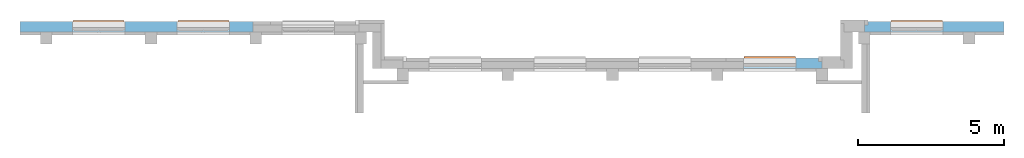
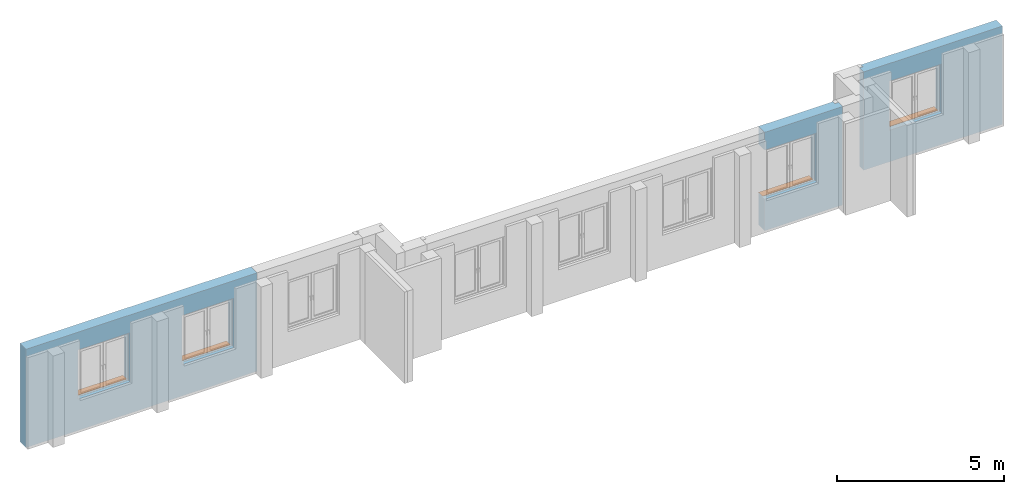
# One storey, part 5 of 7: 4 proxies, 4 openings, plus 3 elements that do not belong to this part.
"""IFC4 building model written with IfcOpenShell, lengths in metres."""

from ifc_helpers import new_model, entity, si_unit, converted_unit, derived_unit, frame, frame_2d, origin, origin_with_axes, place, context, subcontext, project, spatial, polyline, rectangle, outline, extrude, faceted_brep, source, transform, mapped, material, layer, layer_set, layer_usage, element, fill, save


model = new_model("IFC4")

# Units and contexts
model_context = context("Model", 3, precision=1e-05, world=origin())
body_context = subcontext(model_context, "Body", "Model", "MODEL_VIEW")
ifc_project = project(units=[si_unit("LENGTHUNIT", "METRE"), si_unit("AREAUNIT", "SQUARE_METRE"), si_unit("VOLUMEUNIT", "CUBIC_METRE"), si_unit("MASSUNIT", "GRAM", prefix="KILO"), converted_unit("PLANEANGLEUNIT", "DEGREE", entity("IfcPlaneAngleMeasure", 0.0174532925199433), si_unit("PLANEANGLEUNIT", "RADIAN"), dimensions=[0, 0, 0, 0, 0, 0, 0]), derived_unit("THERMALTRANSMITTANCEUNIT", [(si_unit("POWERUNIT", "WATT"), 1), (si_unit("THERMODYNAMICTEMPERATUREUNIT", "KELVIN"), -1), (si_unit("LENGTHUNIT", "METRE"), -2)]), derived_unit("VOLUMETRICFLOWRATEUNIT", [(si_unit("LENGTHUNIT", "METRE"), 3), (converted_unit("TIMEUNIT", "hour", entity("IfcTimeMeasure", 3600.0), si_unit("TIMEUNIT", "SECOND"), dimensions=[0, 0, 1, 0, 0, 0, 0]), -1), (si_unit("LENGTHUNIT", "METRE"), -1)])], contexts=[model_context])

# Site, building, storey
site_placement = place(None, origin())
site = spatial("IfcSite", under=ifc_project, at=site_placement, Name="3. ASŘ", CompositionType="ELEMENT")
building_placement = place(site_placement, origin())
building = spatial("IfcBuilding", under=site, at=building_placement, Name="Pavilon B", CompositionType="ELEMENT")
storey_placement = place(building_placement, frame((0.0, 0.0, 3.6)))
storey = spatial("IfcBuildingStorey", under=building, at=storey_placement, Name="Půdorys 2.NP", CompositionType="ELEMENT", Elevation=3.6)

# Wall, opening, proxy
ifc_material_1 = material(Name="ZELEZOBETONOVÁ KCE")
ifc_layer_1 = layer(ifc_material_1, 0.249999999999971)
ifc_material_2 = material(Name="MINERÁLNÍ VATA")
ifc_layer_2 = layer(ifc_material_2, 0.119999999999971)
ifc_layer_set_1 = layer_set([ifc_layer_1, ifc_layer_2])
ifc_layer_usage_1 = layer_usage(ifc_layer_set_1, "AXIS2", "POSITIVE", 0.0)
wall_1_placement = place(storey_placement, frame((44.95, -16.85, -0.1)))
wall_1 = element("IfcWall", 1, at=wall_1_placement, inside=storey, material=ifc_layer_usage_1, Name="ZELEZOBETONOVÁ KCE", context=body_context, shape_type="SweptSolid", body=[
    extrude(outline(polyline([(0.0, 0.0), (2.7, 0.0), (2.7, 0.249999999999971), (2.58, 0.249999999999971), (2.58, 0.369999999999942), (0.0, 0.369999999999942), (0.0, 0.0)])), origin_with_axes(), (0.0, 0.0, 1.0), 3.6),
])
opening_1_placement = place(wall_1_placement, frame((1.8, 0.369999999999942, 1.15), z_axis=(0.0, -1.0, 0.0), x_axis=(0.0, 0.0, 1.0)))
opening_1 = element("IfcOpeningElement", 2, at=opening_1_placement, cuts=wall_1, Name="Okenní otvor", ObjectType="Opening", context=body_context, shape_type="SweptSolid", body=[
    extrude(outline(polyline([(0.0, 1.8), (1.8, 1.8), (1.8, 0.0), (0.0, 0.0), (0.0, 1.8)])), origin_with_axes(), (0.0, 0.0, 1.0), 0.119999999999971),
    extrude(outline(polyline([(0.0, 1.8), (1.8, 1.8), (1.8, 0.0), (0.0, 0.0), (0.0, 1.8)])), frame((0.0, 0.0, 0.119999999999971), z_axis=(0.0, 0.0, 1.0), x_axis=(1.0, 0.0, 0.0)), (0.0, 0.0, 1.0), 0.249999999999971),
])
ifc_material_3 = material(Name="PLECH")
shared_shape_1 = source(origin_with_axes(), body_context, "Body", "Brep", [
    faceted_brep([(0.04, 0.0, 0.0), (0.04, 0.2, 0.0), (0.04, 0.2, 0.005), (0.04, 0.0, 0.005), (1.76, 0.0, 0.0), (1.76, 0.0, 0.005), (1.76, 0.2, 0.005), (1.76, 0.2, 0.0), (0.02, 0.0, 0.0), (0.02, -0.035, 0.0), (1.78, -0.035, 0.0), (1.78, 0.0, 0.0), (1.78, 0.0, 0.005), (1.78, -0.04, 0.005), (0.02, -0.04, 0.005), (0.02, 0.0, 0.005), (0.02, -0.04, -0.025), (0.02, -0.035, -0.025), (1.78, -0.035, -0.025), (1.78, -0.04, -0.025)], [[[0, 1, 2, 3]], [[4, 5, 6, 7]], [[1, 0, 8, 9, 10, 11, 4, 7]], [[2, 1, 7, 6]], [[3, 2, 6, 5, 12, 13, 14, 15]], [[8, 15, 14, 16, 17, 9]], [[11, 10, 18, 19, 13, 12]], [[15, 8, 0, 3]], [[5, 4, 11, 12]], [[16, 14, 13, 19]], [[17, 16, 19, 18]], [[9, 17, 18, 10]]], orient=[[False], [False], [False], [False], [False], [False], [False], [False], [False], [False], [False], [False]]),
    faceted_brep([(0.02, 0.0, 0.0), (0.02, 0.2, 0.0), (0.02, 0.2, 0.005), (0.02, 0.0, 0.005), (0.04, 0.0, 0.0), (0.04, 0.0, 0.005), (0.04, 0.2, 0.005), (0.04, 0.2, 0.0)], [[[0, 1, 2, 3]], [[4, 5, 6, 7]], [[1, 0, 4, 7]], [[2, 1, 7, 6]], [[3, 2, 6, 5]], [[0, 3, 5, 4]]], orient=[[False], [False], [False], [False], [False], [False]]),
    faceted_brep([(1.76, 0.0, 0.0), (1.76, 0.2, 0.0), (1.76, 0.2, 0.005), (1.76, 0.0, 0.005), (1.78, 0.0, 0.0), (1.78, 0.0, 0.005), (1.78, 0.2, 0.005), (1.78, 0.2, 0.0)], [[[0, 1, 2, 3]], [[4, 5, 6, 7]], [[1, 0, 4, 7]], [[2, 1, 7, 6]], [[3, 2, 6, 5]], [[0, 3, 5, 4]]], orient=[[False], [False], [False], [False], [False], [False]]),
])
proxy_1_placement = place(opening_1_placement, frame((0.0, 0.0, 0.0), z_axis=(1.0, 0.0, 0.0), x_axis=(0.0, 1.0, 0.0)))
proxy_1 = element("IfcBuildingElementProxy", 3, at=proxy_1_placement, inside=storey, material=ifc_material_3, Name="Parapet vnější", context=body_context, shape_type="MappedRepresentation", body=[
    mapped(shared_shape_1, transform((0.0, 0.0, 0.0), x_axis=(1.0, 0.0, 0.0), y_axis=(0.0, 1.0, 0.0), z_axis=(0.0, 0.0, 1.0), scale=1.0)),
])
fill(opening_1, proxy_1)

ifc_material_4 = material(Name="ZELEZOBETONOVÁ KCE")
ifc_layer_3 = layer(ifc_material_4, 0.25)
ifc_material_5 = material(Name="MINERÁLNÍ VATA")
ifc_layer_4 = layer(ifc_material_5, 0.12)
ifc_layer_set_2 = layer_set([ifc_layer_3, ifc_layer_4])
ifc_layer_usage_2 = layer_usage(ifc_layer_set_2, "AXIS2", "POSITIVE", 0.0)
wall_2_placement = place(storey_placement, frame((49.1, -15.6, -0.1)))
wall_2 = element("IfcWall", 4, at=wall_2_placement, inside=storey, material=ifc_layer_usage_2, Name="ZELEZOBETONOVÁ KCE", context=body_context, shape_type="SweptSolid", body=[
    extrude(outline(polyline([(0.12, 0.37), (0.12, 0.25), (0.0, 0.25), (0.0, 0.0), (4.8, 0.0), (4.8, 0.37), (0.12, 0.37)])), origin_with_axes(), (0.0, 0.0, 1.0), 3.6),
])
opening_2_placement = place(wall_2_placement, frame((2.7, 0.37, 1.15), z_axis=(0.0, -1.0, 0.0), x_axis=(0.0, 0.0, 1.0)))
opening_2 = element("IfcOpeningElement", 5, at=opening_2_placement, cuts=wall_2, Name="Okenní otvor", ObjectType="Opening", context=body_context, shape_type="SweptSolid", body=[
    extrude(outline(polyline([(0.0, 1.8), (1.8, 1.8), (1.8, 0.0), (0.0, 0.0), (0.0, 1.8)])), origin_with_axes(), (0.0, 0.0, 1.0), 0.12),
    extrude(outline(polyline([(0.0, 1.8), (1.8, 1.8), (1.8, 0.0), (0.0, 0.0), (0.0, 1.8)])), frame((0.0, 0.0, 0.12), z_axis=(0.0, 0.0, 1.0), x_axis=(1.0, 0.0, 0.0)), (0.0, 0.0, 1.0), 0.25),
])
ifc_material_6 = material(Name="PLECH")
shared_shape_2 = source(origin_with_axes(), body_context, "Body", "Brep", [
    faceted_brep([(0.04, 0.0, 0.0), (0.04, 0.2, 0.0), (0.04, 0.2, 0.005), (0.04, 0.0, 0.005), (1.76, 0.0, 0.0), (1.76, 0.0, 0.005), (1.76, 0.2, 0.005), (1.76, 0.2, 0.0), (0.02, 0.0, 0.0), (0.02, -0.035, 0.0), (1.78, -0.035, 0.0), (1.78, 0.0, 0.0), (1.78, 0.0, 0.005), (1.78, -0.04, 0.005), (0.02, -0.04, 0.005), (0.02, 0.0, 0.005), (0.02, -0.04, -0.025), (0.02, -0.035, -0.025), (1.78, -0.035, -0.025), (1.78, -0.04, -0.025)], [[[0, 1, 2, 3]], [[4, 5, 6, 7]], [[1, 0, 8, 9, 10, 11, 4, 7]], [[2, 1, 7, 6]], [[3, 2, 6, 5, 12, 13, 14, 15]], [[8, 15, 14, 16, 17, 9]], [[11, 10, 18, 19, 13, 12]], [[15, 8, 0, 3]], [[5, 4, 11, 12]], [[16, 14, 13, 19]], [[17, 16, 19, 18]], [[9, 17, 18, 10]]], orient=[[False], [False], [False], [False], [False], [False], [False], [False], [False], [False], [False], [False]]),
    faceted_brep([(0.02, 0.0, 0.0), (0.02, 0.2, 0.0), (0.02, 0.2, 0.005), (0.02, 0.0, 0.005), (0.04, 0.0, 0.0), (0.04, 0.0, 0.005), (0.04, 0.2, 0.005), (0.04, 0.2, 0.0)], [[[0, 1, 2, 3]], [[4, 5, 6, 7]], [[1, 0, 4, 7]], [[2, 1, 7, 6]], [[3, 2, 6, 5]], [[0, 3, 5, 4]]], orient=[[False], [False], [False], [False], [False], [False]]),
    faceted_brep([(1.76, 0.0, 0.0), (1.76, 0.2, 0.0), (1.76, 0.2, 0.005), (1.76, 0.0, 0.005), (1.78, 0.0, 0.0), (1.78, 0.0, 0.005), (1.78, 0.2, 0.005), (1.78, 0.2, 0.0)], [[[0, 1, 2, 3]], [[4, 5, 6, 7]], [[1, 0, 4, 7]], [[2, 1, 7, 6]], [[3, 2, 6, 5]], [[0, 3, 5, 4]]], orient=[[False], [False], [False], [False], [False], [False]]),
])
proxy_2_placement = place(opening_2_placement, frame((0.0, 0.0, 0.0), z_axis=(1.0, 0.0, 0.0), x_axis=(0.0, 1.0, 0.0)))
proxy_2 = element("IfcBuildingElementProxy", 6, at=proxy_2_placement, inside=storey, material=ifc_material_6, Name="Parapet vnější", context=body_context, shape_type="MappedRepresentation", body=[
    mapped(shared_shape_2, transform((0.0, 0.0, 0.0), x_axis=(1.0, 0.0, 0.0), y_axis=(0.0, 1.0, 0.0), z_axis=(0.0, 0.0, 1.0), scale=1.0)),
])
fill(opening_2, proxy_2)

# Wall, openings, proxies
ifc_material_7 = material(Name="ZELEZOBETONOVÁ KCE")
ifc_layer_5 = layer(ifc_material_7, 0.25)
ifc_material_8 = material(Name="MINERÁLNÍ VATA")
ifc_layer_6 = layer(ifc_material_8, 0.12)
ifc_layer_set_3 = layer_set([ifc_layer_5, ifc_layer_6])
ifc_layer_usage_3 = layer_usage(ifc_layer_set_3, "AXIS2", "POSITIVE", 0.0)
wall_3_placement = place(storey_placement, frame((20.1, -15.6, -0.1)))
wall_3 = element("IfcWall", 7, at=wall_3_placement, inside=storey, material=ifc_layer_usage_3, Name="ZELEZOBETONOVÁ KCE", context=body_context, shape_type="SweptSolid", body=[
    extrude(rectangle(XDim=8.0, YDim=0.37, at=frame_2d((4.0, 0.185), x_axis=(1.0, 0.0))), origin_with_axes(), (0.0, 0.0, 1.0), 3.6),
])
opening_3_placement = place(wall_3_placement, frame((3.6, 0.37, 1.15), z_axis=(0.0, -1.0, 0.0), x_axis=(0.0, 0.0, 1.0)))
opening_3 = element("IfcOpeningElement", 8, at=opening_3_placement, cuts=wall_3, Name="Okenní otvor", ObjectType="Opening", context=body_context, shape_type="SweptSolid", body=[
    extrude(outline(polyline([(0.0, 1.8), (1.8, 1.8), (1.8, 0.0), (0.0, 0.0), (0.0, 1.8)])), origin_with_axes(), (0.0, 0.0, 1.0), 0.12),
    extrude(outline(polyline([(0.0, 1.8), (1.8, 1.8), (1.8, 0.0), (0.0, 0.0), (0.0, 1.8)])), frame((0.0, 0.0, 0.12), z_axis=(0.0, 0.0, 1.0), x_axis=(1.0, 0.0, 0.0)), (0.0, 0.0, 1.0), 0.25),
])
opening_4_placement = place(wall_3_placement, frame((7.2, 0.37, 1.15), z_axis=(0.0, -1.0, 0.0), x_axis=(0.0, 0.0, 1.0)))
opening_4 = element("IfcOpeningElement", 9, at=opening_4_placement, cuts=wall_3, Name="Okenní otvor", ObjectType="Opening", context=body_context, shape_type="SweptSolid", body=[
    extrude(outline(polyline([(0.0, 1.8), (1.8, 1.8), (1.8, 0.0), (0.0, 0.0), (0.0, 1.8)])), origin_with_axes(), (0.0, 0.0, 1.0), 0.12),
    extrude(outline(polyline([(0.0, 1.8), (1.8, 1.8), (1.8, 0.0), (0.0, 0.0), (0.0, 1.8)])), frame((0.0, 0.0, 0.12), z_axis=(0.0, 0.0, 1.0), x_axis=(1.0, 0.0, 0.0)), (0.0, 0.0, 1.0), 0.25),
])
ifc_material_9 = material(Name="PLECH")
shared_shape_3 = source(origin_with_axes(), body_context, "Body", "Brep", [
    faceted_brep([(0.04, 0.0, 0.0), (0.04, 0.2, 0.0), (0.04, 0.2, 0.005), (0.04, 0.0, 0.005), (1.76, 0.0, 0.0), (1.76, 0.0, 0.005), (1.76, 0.2, 0.005), (1.76, 0.2, 0.0), (0.02, 0.0, 0.0), (0.02, -0.035, 0.0), (1.78, -0.035, 0.0), (1.78, 0.0, 0.0), (1.78, 0.0, 0.005), (1.78, -0.04, 0.005), (0.02, -0.04, 0.005), (0.02, 0.0, 0.005), (0.02, -0.04, -0.025), (0.02, -0.035, -0.025), (1.78, -0.035, -0.025), (1.78, -0.04, -0.025)], [[[0, 1, 2, 3]], [[4, 5, 6, 7]], [[1, 0, 8, 9, 10, 11, 4, 7]], [[2, 1, 7, 6]], [[3, 2, 6, 5, 12, 13, 14, 15]], [[8, 15, 14, 16, 17, 9]], [[11, 10, 18, 19, 13, 12]], [[15, 8, 0, 3]], [[5, 4, 11, 12]], [[16, 14, 13, 19]], [[17, 16, 19, 18]], [[9, 17, 18, 10]]], orient=[[False], [False], [False], [False], [False], [False], [False], [False], [False], [False], [False], [False]]),
    faceted_brep([(0.02, 0.0, 0.0), (0.02, 0.2, 0.0), (0.02, 0.2, 0.005), (0.02, 0.0, 0.005), (0.04, 0.0, 0.0), (0.04, 0.0, 0.005), (0.04, 0.2, 0.005), (0.04, 0.2, 0.0)], [[[0, 1, 2, 3]], [[4, 5, 6, 7]], [[1, 0, 4, 7]], [[2, 1, 7, 6]], [[3, 2, 6, 5]], [[0, 3, 5, 4]]], orient=[[False], [False], [False], [False], [False], [False]]),
    faceted_brep([(1.76, 0.0, 0.0), (1.76, 0.2, 0.0), (1.76, 0.2, 0.005), (1.76, 0.0, 0.005), (1.78, 0.0, 0.0), (1.78, 0.0, 0.005), (1.78, 0.2, 0.005), (1.78, 0.2, 0.0)], [[[0, 1, 2, 3]], [[4, 5, 6, 7]], [[1, 0, 4, 7]], [[2, 1, 7, 6]], [[3, 2, 6, 5]], [[0, 3, 5, 4]]], orient=[[False], [False], [False], [False], [False], [False]]),
])
proxy_3_placement = place(opening_3_placement, frame((0.0, 0.0, 0.0), z_axis=(1.0, 0.0, 0.0), x_axis=(0.0, 1.0, 0.0)))
proxy_3 = element("IfcBuildingElementProxy", 10, at=proxy_3_placement, inside=storey, material=ifc_material_9, Name="Parapet vnější", context=body_context, shape_type="MappedRepresentation", body=[
    mapped(shared_shape_3, transform((0.0, 0.0, 0.0), x_axis=(1.0, 0.0, 0.0), y_axis=(0.0, 1.0, 0.0), z_axis=(0.0, 0.0, 1.0), scale=1.0)),
])
fill(opening_3, proxy_3)
ifc_material_10 = material(Name="PLECH")
shared_shape_4 = source(origin_with_axes(), body_context, "Body", "Brep", [
    faceted_brep([(0.04, 0.0, 0.0), (0.04, 0.2, 0.0), (0.04, 0.2, 0.005), (0.04, 0.0, 0.005), (1.76, 0.0, 0.0), (1.76, 0.0, 0.005), (1.76, 0.2, 0.005), (1.76, 0.2, 0.0), (0.02, 0.0, 0.0), (0.02, -0.035, 0.0), (1.78, -0.035, 0.0), (1.78, 0.0, 0.0), (1.78, 0.0, 0.005), (1.78, -0.04, 0.005), (0.02, -0.04, 0.005), (0.02, 0.0, 0.005), (0.02, -0.04, -0.025), (0.02, -0.035, -0.025), (1.78, -0.035, -0.025), (1.78, -0.04, -0.025)], [[[0, 1, 2, 3]], [[4, 5, 6, 7]], [[1, 0, 8, 9, 10, 11, 4, 7]], [[2, 1, 7, 6]], [[3, 2, 6, 5, 12, 13, 14, 15]], [[8, 15, 14, 16, 17, 9]], [[11, 10, 18, 19, 13, 12]], [[15, 8, 0, 3]], [[5, 4, 11, 12]], [[16, 14, 13, 19]], [[17, 16, 19, 18]], [[9, 17, 18, 10]]], orient=[[False], [False], [False], [False], [False], [False], [False], [False], [False], [False], [False], [False]]),
    faceted_brep([(0.02, 0.0, 0.0), (0.02, 0.2, 0.0), (0.02, 0.2, 0.005), (0.02, 0.0, 0.005), (0.04, 0.0, 0.0), (0.04, 0.0, 0.005), (0.04, 0.2, 0.005), (0.04, 0.2, 0.0)], [[[0, 1, 2, 3]], [[4, 5, 6, 7]], [[1, 0, 4, 7]], [[2, 1, 7, 6]], [[3, 2, 6, 5]], [[0, 3, 5, 4]]], orient=[[False], [False], [False], [False], [False], [False]]),
    faceted_brep([(1.76, 0.0, 0.0), (1.76, 0.2, 0.0), (1.76, 0.2, 0.005), (1.76, 0.0, 0.005), (1.78, 0.0, 0.0), (1.78, 0.0, 0.005), (1.78, 0.2, 0.005), (1.78, 0.2, 0.0)], [[[0, 1, 2, 3]], [[4, 5, 6, 7]], [[1, 0, 4, 7]], [[2, 1, 7, 6]], [[3, 2, 6, 5]], [[0, 3, 5, 4]]], orient=[[False], [False], [False], [False], [False], [False]]),
])
proxy_4_placement = place(opening_4_placement, frame((0.0, 0.0, 0.0), z_axis=(1.0, 0.0, 0.0), x_axis=(0.0, 1.0, 0.0)))
proxy_4 = element("IfcBuildingElementProxy", 11, at=proxy_4_placement, inside=storey, material=ifc_material_10, Name="Parapet vnější", context=body_context, shape_type="MappedRepresentation", body=[
    mapped(shared_shape_4, transform((0.0, 0.0, 0.0), x_axis=(1.0, 0.0, 0.0), y_axis=(0.0, 1.0, 0.0), z_axis=(0.0, 0.0, 1.0), scale=1.0)),
])
fill(opening_4, proxy_4)

save(model, "model.ifc")
